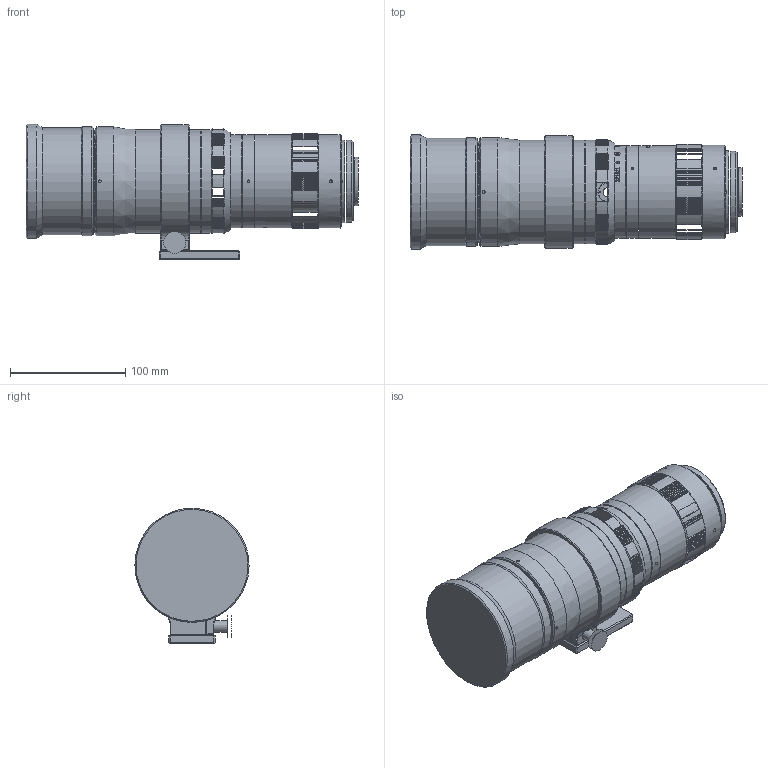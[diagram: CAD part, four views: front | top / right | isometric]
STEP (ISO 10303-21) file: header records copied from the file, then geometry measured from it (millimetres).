
FILE_DESCRIPTION((''),'2;1');
FILE_NAME('C:\Documents and Settings\tbosotti\Desktop\C0245_008.stp','2014-04-28T11:44:40',('tbosotti'),(''),'Autodesk Inventor 2010','Autodesk Inventor 2010','');
FILE_SCHEMA(('AUTOMOTIVE_DESIGN { 1 0 10303 214 1 1 1 1 }'));
Length unit declared in the file: millimetre
Products named in the file (2): C0245_008_000.iam (Livello di dettaglio sostituto1); C0245_008
Assembly tree (1 placements, depth 2):
  C0245_008_000.iam (Livello di dettaglio sostituto1)
    C0245_008
Bounding box: 287.75 x 98.99 x 117.49 mm (x, y, z)
Surface area: 197525.7 mm2 (no closed solid volume)
Topology: 0 solids, 41 shells, 390 faces, 2683 edges, 2198 vertices
Faces by surface type: plane 173, cylinder 135, cone 56, bspline 26
Full cylindrical faces by diameter (mm): 2.459 x1, 4.978 x1, 7.798 x1, 10 x1, 40.7 x1, 42 x1, 53.5 x1, 64.5 x1, 69.5 x1, 71 x1, 71.5 x1, 76 x1, 80.5 x2, 81 x1, 88 x2, 89.8 x2, 93 x1, 94.4 x2, 99 x1
Entity records: 40803 total; most frequent: CARTESIAN_POINT 23890, ORIENTED_EDGE 3143, DIRECTION 2947, EDGE_CURVE 2576, VERTEX_POINT 2166, AXIS2_PLACEMENT_3D 1141, CIRCLE 774, VECTOR 665
